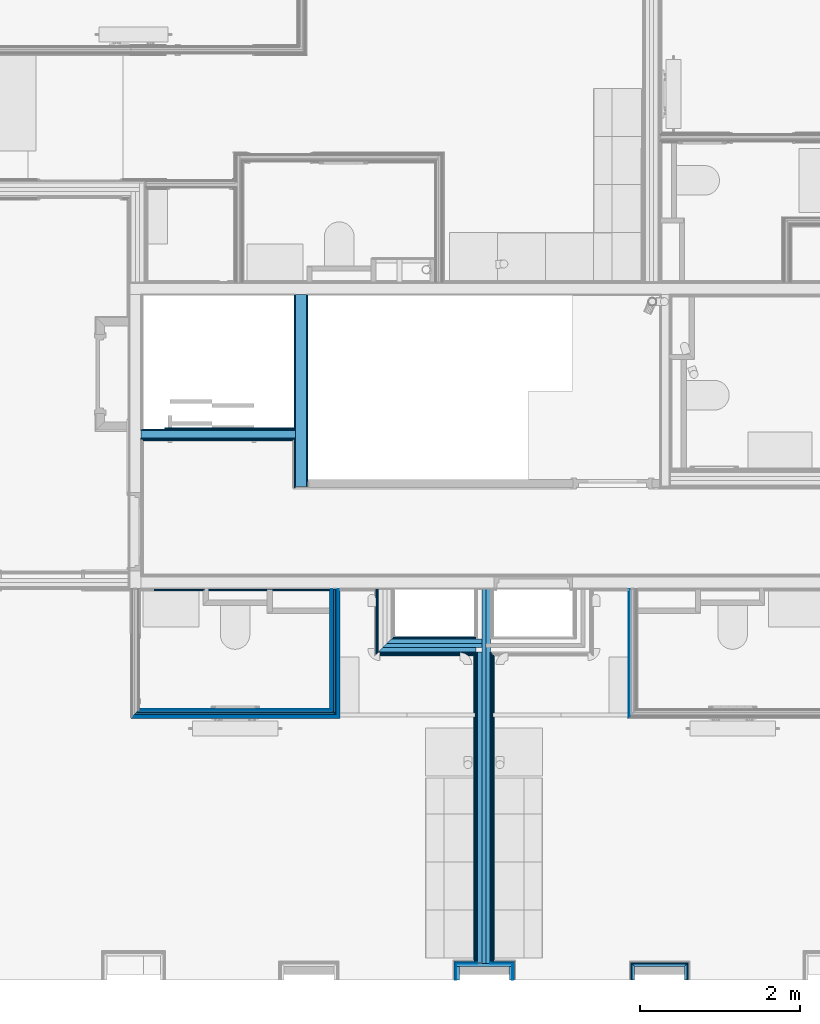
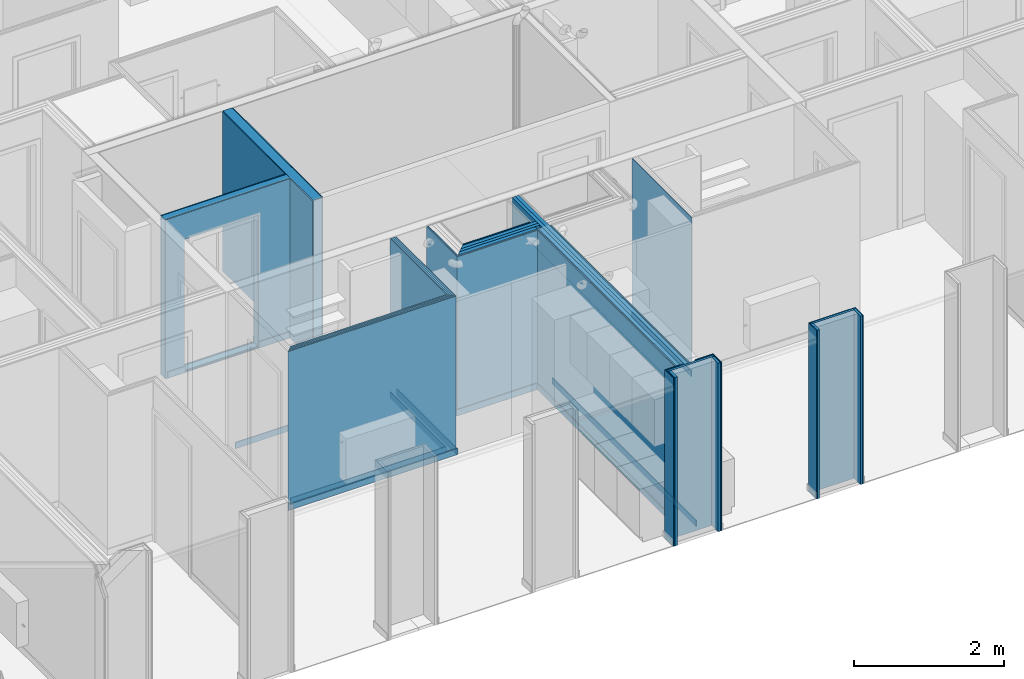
# One storey, part 10 of 85: 62 building element parts, 1 opening, 15 elements without a shape of their own.
"""IFC2X3 building model written with IfcOpenShell, lengths in metres."""

from ifc_helpers import new_model, entity, si_unit, converted_unit, derived_unit, money_unit, direction, frame, frame_2d, origin_with_axes, place, context, subcontext, project, spatial, polyline, rectangle, outline, extrude, material, type_object, element, aggregate, save


model = new_model("IFC2X3")

# Units and contexts
model_context = context("Model", 3, precision=1e-05, world=origin_with_axes(), true_north=direction((0.0, 1.0)))
body_context = subcontext(model_context, "Body", "Model", "MODEL_VIEW", scale=1.0)
ifc_project = project(units=[si_unit("LENGTHUNIT", "METRE"), si_unit("AREAUNIT", "SQUARE_METRE"), si_unit("VOLUMEUNIT", "CUBIC_METRE"), si_unit("ABSORBEDDOSEUNIT", "GRAY"), si_unit("AMOUNTOFSUBSTANCEUNIT", "MOLE"), si_unit("DOSEEQUIVALENTUNIT", "SIEVERT"), si_unit("ELECTRICCAPACITANCEUNIT", "FARAD"), si_unit("ELECTRICCHARGEUNIT", "COULOMB"), si_unit("ELECTRICCONDUCTANCEUNIT", "SIEMENS"), si_unit("ELECTRICCURRENTUNIT", "AMPERE"), si_unit("ELECTRICRESISTANCEUNIT", "OHM"), si_unit("ELECTRICVOLTAGEUNIT", "VOLT"), si_unit("ENERGYUNIT", "JOULE"), si_unit("FORCEUNIT", "NEWTON"), si_unit("FREQUENCYUNIT", "HERTZ"), si_unit("ILLUMINANCEUNIT", "LUX"), si_unit("INDUCTANCEUNIT", "HENRY"), si_unit("LUMINOUSFLUXUNIT", "LUMEN"), si_unit("LUMINOUSINTENSITYUNIT", "CANDELA"), si_unit("MAGNETICFLUXDENSITYUNIT", "TESLA"), si_unit("MAGNETICFLUXUNIT", "WEBER"), si_unit("MASSUNIT", "GRAM"), converted_unit("PLANEANGLEUNIT", "degree", entity("IfcReal", 0.0174532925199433), si_unit("PLANEANGLEUNIT", "RADIAN"), dimensions=[0, 0, 0, 0, 0, 0, 0]), si_unit("POWERUNIT", "WATT"), si_unit("PRESSUREUNIT", "PASCAL"), si_unit("RADIOACTIVITYUNIT", "BECQUEREL"), si_unit("SOLIDANGLEUNIT", "STERADIAN"), si_unit("THERMODYNAMICTEMPERATUREUNIT", "KELVIN"), si_unit("TIMEUNIT", "SECOND"), derived_unit("ACCELERATIONUNIT", [(si_unit("LENGTHUNIT", "METRE"), 1), (si_unit("TIMEUNIT", "SECOND"), -2)]), derived_unit("ANGULARVELOCITYUNIT", [(converted_unit("PLANEANGLEUNIT", "degree", entity("IfcReal", 0.0174532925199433), si_unit("PLANEANGLEUNIT", "RADIAN"), dimensions=[0, 0, 0, 0, 0, 0, 0]), 1), (si_unit("TIMEUNIT", "SECOND"), -1)]), derived_unit("CURVATUREUNIT", [(converted_unit("PLANEANGLEUNIT", "degree", entity("IfcReal", 0.0174532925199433), si_unit("PLANEANGLEUNIT", "RADIAN"), dimensions=[0, 0, 0, 0, 0, 0, 0]), 1), (si_unit("LENGTHUNIT", "METRE"), -1)]), derived_unit("DYNAMICVISCOSITYUNIT", [(si_unit("PRESSUREUNIT", "PASCAL"), 1), (si_unit("TIMEUNIT", "SECOND"), 1)]), derived_unit("HEATFLUXDENSITYUNIT", [(si_unit("POWERUNIT", "WATT"), 1), (si_unit("LENGTHUNIT", "METRE"), -2)]), derived_unit("HEATINGVALUEUNIT", [(si_unit("ENERGYUNIT", "JOULE"), 1), (si_unit("MASSUNIT", "GRAM"), -1)]), derived_unit("INTEGERCOUNTRATEUNIT", [(si_unit("TIMEUNIT", "SECOND"), -1)]), derived_unit("IONCONCENTRATIONUNIT", [(si_unit("MASSUNIT", "GRAM"), 1), (si_unit("VOLUMEUNIT", "CUBIC_METRE"), -1)]), derived_unit("ISOTHERMALMOISTURECAPACITYUNIT", [(si_unit("VOLUMEUNIT", "CUBIC_METRE"), 1), (si_unit("MASSUNIT", "GRAM"), -1)]), derived_unit("KINEMATICVISCOSITYUNIT", [(si_unit("AREAUNIT", "SQUARE_METRE"), 1), (si_unit("TIMEUNIT", "SECOND"), -1)]), derived_unit("LINEARFORCEUNIT", [(si_unit("FORCEUNIT", "NEWTON"), 1), (si_unit("LENGTHUNIT", "METRE"), -1)]), derived_unit("LINEARMOMENTUNIT", [(si_unit("FORCEUNIT", "NEWTON"), 1), (si_unit("LENGTHUNIT", "METRE"), -1)]), derived_unit("LINEARSTIFFNESSUNIT", [(si_unit("FORCEUNIT", "NEWTON"), 1), (si_unit("LENGTHUNIT", "METRE"), -1)]), derived_unit("LINEARVELOCITYUNIT", [(si_unit("LENGTHUNIT", "METRE"), 1), (si_unit("TIMEUNIT", "SECOND"), -1)]), derived_unit("LUMINOUSINTENSITYDISTRIBUTIONUNIT", [(si_unit("LUMINOUSINTENSITYUNIT", "CANDELA"), 1), (si_unit("LUMINOUSFLUXUNIT", "LUMEN"), -1)]), derived_unit("MASSDENSITYUNIT", [(si_unit("MASSUNIT", "GRAM"), 1), (si_unit("VOLUMEUNIT", "CUBIC_METRE"), -1)]), derived_unit("MASSFLOWRATEUNIT", [(si_unit("MASSUNIT", "GRAM"), 1), (si_unit("TIMEUNIT", "SECOND"), -1)]), derived_unit("MASSPERLENGTHUNIT", [(si_unit("MASSUNIT", "GRAM"), 1), (si_unit("LENGTHUNIT", "METRE"), -1)]), derived_unit("MODULUSOFELASTICITYUNIT", [(si_unit("FORCEUNIT", "NEWTON"), 1), (si_unit("AREAUNIT", "SQUARE_METRE"), -1)]), derived_unit("MODULUSOFLINEARSUBGRADEREACTIONUNIT", [(si_unit("FORCEUNIT", "NEWTON"), 1), (si_unit("LENGTHUNIT", "METRE"), -2)]), derived_unit("MODULUSOFROTATIONALSUBGRADEREACTIONUNIT", [(si_unit("FORCEUNIT", "NEWTON"), 1), (si_unit("LENGTHUNIT", "METRE"), 1)]), derived_unit("MODULUSOFSUBGRADEREACTIONUNIT", [(si_unit("FORCEUNIT", "NEWTON"), 1), (si_unit("VOLUMEUNIT", "CUBIC_METRE"), -1)]), derived_unit("MOISTUREDIFFUSIVITYUNIT", [(si_unit("VOLUMEUNIT", "CUBIC_METRE"), 1), (si_unit("TIMEUNIT", "SECOND"), -1)]), derived_unit("MOLECULARWEIGHTUNIT", [(si_unit("MASSUNIT", "GRAM"), 1), (si_unit("AMOUNTOFSUBSTANCEUNIT", "MOLE"), -1)]), derived_unit("PLANARFORCEUNIT", [(si_unit("FORCEUNIT", "NEWTON"), 1), (si_unit("LENGTHUNIT", "METRE"), -2)]), derived_unit("ROTATIONALFREQUENCYUNIT", [(si_unit("TIMEUNIT", "SECOND"), -1)]), derived_unit("ROTATIONALMASSUNIT", [(si_unit("MASSUNIT", "GRAM"), 1), (si_unit("LENGTHUNIT", "METRE"), 2)]), derived_unit("ROTATIONALSTIFFNESSUNIT", [(si_unit("FORCEUNIT", "NEWTON"), 1), (si_unit("LENGTHUNIT", "METRE"), 1), (converted_unit("PLANEANGLEUNIT", "degree", entity("IfcReal", 0.0174532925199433), si_unit("PLANEANGLEUNIT", "RADIAN"), dimensions=[0, 0, 0, 0, 0, 0, 0]), -1)]), derived_unit("SECTIONAREAINTEGRALUNIT", [(si_unit("LENGTHUNIT", "METRE"), 5)]), derived_unit("SECTIONMODULUSUNIT", [(si_unit("LENGTHUNIT", "METRE"), 3)]), derived_unit("SHEARMODULUSUNIT", [(si_unit("FORCEUNIT", "NEWTON"), 1), (si_unit("AREAUNIT", "SQUARE_METRE"), -1)]), derived_unit("SOUNDPOWERUNIT", [(si_unit("ENERGYUNIT", "JOULE"), 1), (si_unit("TIMEUNIT", "SECOND"), -1)]), derived_unit("SPECIFICHEATCAPACITYUNIT", [(si_unit("FORCEUNIT", "NEWTON"), 1), (si_unit("MASSUNIT", "GRAM"), -1), (si_unit("THERMODYNAMICTEMPERATUREUNIT", "KELVIN"), -1)]), derived_unit("TEMPERATUREGRADIENTUNIT", [(si_unit("THERMODYNAMICTEMPERATUREUNIT", "KELVIN"), 1), (si_unit("LENGTHUNIT", "METRE"), -1)]), derived_unit("THERMALADMITTANCEUNIT", [(si_unit("POWERUNIT", "WATT"), 1), (si_unit("AREAUNIT", "SQUARE_METRE"), -1), (si_unit("THERMODYNAMICTEMPERATUREUNIT", "KELVIN"), -1)]), derived_unit("THERMALCONDUCTANCEUNIT", [(si_unit("POWERUNIT", "WATT"), 1), (si_unit("LENGTHUNIT", "METRE"), -1), (si_unit("THERMODYNAMICTEMPERATUREUNIT", "KELVIN"), -1)]), derived_unit("THERMALEXPANSIONCOEFFICIENTUNIT", [(si_unit("THERMODYNAMICTEMPERATUREUNIT", "KELVIN"), -1)]), derived_unit("THERMALRESISTANCEUNIT", [(si_unit("AREAUNIT", "SQUARE_METRE"), 1), (si_unit("POWERUNIT", "WATT"), -1)]), derived_unit("THERMALTRANSMITTANCEUNIT", [(si_unit("POWERUNIT", "WATT"), 1), (si_unit("AREAUNIT", "SQUARE_METRE"), -1), (si_unit("THERMODYNAMICTEMPERATUREUNIT", "KELVIN"), -1)]), derived_unit("TORQUEUNIT", [(si_unit("FORCEUNIT", "NEWTON"), 1), (si_unit("LENGTHUNIT", "METRE"), 1)]), derived_unit("VAPORPERMEABILITYUNIT", [(si_unit("MASSUNIT", "GRAM"), 1), (si_unit("TIMEUNIT", "SECOND"), -1)]), derived_unit("VOLUMETRICFLOWRATEUNIT", [(si_unit("VOLUMEUNIT", "CUBIC_METRE"), 1), (si_unit("TIMEUNIT", "SECOND"), -1)]), derived_unit("WARPINGCONSTANTUNIT", [(si_unit("LENGTHUNIT", "METRE"), 6)]), derived_unit("WARPINGMOMENTUNIT", [(si_unit("FORCEUNIT", "NEWTON"), 1), (si_unit("LENGTHUNIT", "METRE"), 2)]), money_unit("GBP")], contexts=[model_context])

# Site, building, storey
site_placement = place(None, origin_with_axes())
site = spatial("IfcSite", under=ifc_project, at=site_placement, Name="Site", CompositionType="ELEMENT")
building_placement = place(site_placement, origin_with_axes())
building = spatial("IfcBuilding", under=site, at=building_placement, Name="Building01", CompositionType="ELEMENT")
storey_placement = place(building_placement, frame((0.0, 0.0, 12.13), z_axis=(0.0, 0.0, 1.0), x_axis=(1.0, 0.0, 0.0)))
storey = spatial("IfcBuildingStorey", under=building, at=storey_placement, Name="3F", CompositionType="ELEMENT", Elevation=12.13)

# Wall, opening, building element parts
wall_type_1 = type_object("IfcWallType", Name="SHE_A-Walls_Type04a_BlockworkWall_130mm", PredefinedType="NOTDEFINED")
wall_1_placement = place(storey_placement, frame((11.145, 6.965, 0.0), z_axis=(0.0, 0.0, 1.0), x_axis=(-1.0, 0.0, 0.0)))
wall_1 = element("IfcWall", 1, at=wall_1_placement, inside=storey, type_object=wall_type_1, Name="4A", ObjectType="SHE_A-Walls_Type04a_BlockworkWall_130mm")
opening_placement = place(wall_1_placement, frame((0.5, -0.03, 0.03), z_axis=(0.0, 0.0, 1.0), x_axis=(1.0, 0.0, 0.0)))
element("IfcOpeningElement", 2, at=opening_placement, cuts=wall_1, Name="Opening", ObjectType="Opening", context=body_context, shape_type="SweptSolid", body=[
    extrude(rectangle(XDim=1.133302, YDim=2.14, at=frame_2d((-0.566651, 1.07), x_axis=(-1.0, 0.0))), frame((0.0, 0.0, 0.0), z_axis=(0.0, 1.0, 0.0), x_axis=(-1.0, 0.0, 0.0)), (0.0, 0.0, 1.0), 0.16),
])
ifc_material_1 = material(Name="A_BSUK_Walls_Timber")
placement_1 = place(wall_1_placement, origin_with_axes())
building_element_part_1 = element("IfcBuildingElementPart", 3, at=placement_1, material=ifc_material_1, Name="1", context=body_context, shape_type="SweptSolid", body=[
    extrude(outline(polyline([(0.0, -0.015), (0.015, -0.03), (1.633302, -0.03), (1.633302, -0.015), (0.0, -0.015)])), frame((0.0, 0.0, 0.015), z_axis=(0.0, 0.0, 1.0), x_axis=(1.0, 0.0, 0.0)), (0.0, 0.0, 1.0), 0.1),
])
ifc_material_2 = material(Name="A_BSUK_WallInternal_Finishes_Plasterboard")
building_element_part_2 = element("IfcBuildingElementPart", 4, at=placement_1, material=ifc_material_2, Name="2", context=body_context, shape_type="SweptSolid", body=[
    extrude(outline(polyline([(1.93, 0.0), (0.0, 0.0), (0.015, -0.015), (1.93, -0.015), (1.93, 0.0)])), origin_with_axes(), (0.0, 0.0, 1.0), 2.59),
])
ifc_material_3 = material(Name="A_BSUK_WallsInternal_Block")
building_element_part_3 = element("IfcBuildingElementPart", 5, at=placement_1, material=ifc_material_3, Name="3", context=body_context, shape_type="SweptSolid", body=[
    extrude(rectangle(XDim=1.93, YDim=0.1, at=frame_2d((0.965, 0.05), x_axis=(-1.0, 0.0))), origin_with_axes(), (0.0, 0.0, 1.0), 2.59),
])
ifc_material_4 = material(Name="A_BSUK_WallInternal_Finishes_Plaster")
building_element_part_4 = element("IfcBuildingElementPart", 6, at=placement_1, material=ifc_material_4, Name="4", context=body_context, shape_type="SweptSolid", body=[
    extrude(outline(polyline([(1.93, 0.115), (0.015, 0.115), (0.0, 0.1), (1.93, 0.1), (1.93, 0.115)])), origin_with_axes(), (0.0, 0.0, 1.0), 2.59),
])
building_element_part_5 = element("IfcBuildingElementPart", 7, at=placement_1, material=ifc_material_1, Name="5", context=body_context, shape_type="SweptSolid", body=[
    extrude(outline(polyline([(1.9, 0.13), (0.03, 0.13), (0.015, 0.115), (1.9, 0.115), (1.9, 0.13)])), frame((0.0, 0.0, 0.015), z_axis=(0.0, 0.0, 1.0), x_axis=(1.0, 0.0, 0.0)), (0.0, 0.0, 1.0), 0.1),
])
aggregate(wall_1, [building_element_part_1, building_element_part_2, building_element_part_3, building_element_part_4, building_element_part_5])

# Wall, building element parts
wall_type_2 = type_object("IfcWallType", Name="SHE_A-Walls_Type03a_BlockworkWall_170mm", PredefinedType="NOTDEFINED")
wall_2_placement = place(storey_placement, frame((11.145, 6.263, 0.0), z_axis=(0.0, 0.0, 1.0), x_axis=(0.0, 1.0, 0.0)))
wall_2 = element("IfcWall", 8, at=wall_2_placement, inside=storey, type_object=wall_type_2, Name="4B", ObjectType="SHE_A-Walls_Type03a_BlockworkWall_170mm")
placement_2 = place(wall_2_placement, origin_with_axes())
building_element_part_6 = element("IfcBuildingElementPart", 9, at=placement_2, material=ifc_material_2, Name="2", context=body_context, shape_type="SweptSolid", body=[
    extrude(rectangle(XDim=2.387, YDim=0.015, at=frame_2d((1.1935, -0.1475), x_axis=(-1.0, 0.0))), origin_with_axes(), (0.0, 0.0, 1.0), 2.59),
])
building_element_part_7 = element("IfcBuildingElementPart", 10, at=placement_2, material=ifc_material_3, Name="3", context=body_context, shape_type="SweptSolid", body=[
    extrude(rectangle(XDim=2.402, YDim=0.14, at=frame_2d((1.201, -0.07), x_axis=(-1.0, 0.0))), origin_with_axes(), (0.0, 0.0, 1.0), 2.59),
])
building_element_part_8 = element("IfcBuildingElementPart", 11, at=placement_2, material=ifc_material_4, Name="4", context=body_context, shape_type="SweptSolid", body=[
    extrude(outline(polyline([(0.587, 0.015), (-0.013, 0.015), (-0.013, 0.0), (0.602, 0.0), (0.587, 0.015)])), origin_with_axes(), (0.0, 0.0, 1.0), 2.59),
])
building_element_part_9 = element("IfcBuildingElementPart", 12, at=placement_2, material=ifc_material_4, Name="5", context=body_context, shape_type="SweptSolid", body=[
    extrude(outline(polyline([(2.387, 0.015), (0.717, 0.015), (0.702, 0.0), (2.387, 0.0), (2.387, 0.015)])), origin_with_axes(), (0.0, 0.0, 1.0), 2.59),
])
aggregate(wall_2, [building_element_part_6, building_element_part_7, building_element_part_8, building_element_part_9])

wall_type_3 = type_object("IfcWallType", Name="SHE_A-Walls_Type06d_ExternalWallInsulation_48mm", PredefinedType="NOTDEFINED")
wall_3_placement = place(storey_placement, frame((15.383, 0.1, 0.0), z_axis=(0.0, 0.0, 1.0), x_axis=(0.0, 1.0, 0.0)))
wall_3 = element("IfcWall", 13, at=wall_3_placement, inside=storey, type_object=wall_type_3, Name="6D", ObjectType="SHE_A-Walls_Type06d_ExternalWallInsulation_48mm")
ifc_material_5 = material(Name="A_BSUK_Insulation")
placement_3 = place(wall_3_placement, origin_with_axes())
building_element_part_10 = element("IfcBuildingElementPart", 14, at=placement_3, material=ifc_material_5, Name="1", context=body_context, shape_type="SweptSolid", body=[
    extrude(outline(polyline([(0.206, 0.036), (0.0, 0.036), (0.0, 0.0), (0.17, 0.0), (0.206, 0.036)])), origin_with_axes(), (0.0, 0.0, 1.0), 2.74),
])
building_element_part_11 = element("IfcBuildingElementPart", 15, at=placement_3, material=ifc_material_2, Name="2", context=body_context, shape_type="SweptSolid", body=[
    extrude(outline(polyline([(0.218, 0.048), (0.0, 0.048), (0.0, 0.035), (0.205, 0.035), (0.218, 0.048)])), origin_with_axes(), (0.0, 0.0, 1.0), 2.74),
])
aggregate(wall_3, [building_element_part_10, building_element_part_11])

wall_4_placement = place(storey_placement, frame((15.383, 0.27, 0.0), z_axis=(0.0, 0.0, 1.0), x_axis=(1.0, 0.0, 0.0)))
wall_4 = element("IfcWall", 16, at=wall_4_placement, inside=storey, type_object=wall_type_3, Name="6D", ObjectType="SHE_A-Walls_Type06d_ExternalWallInsulation_48mm")
placement_4 = place(wall_4_placement, origin_with_axes())
building_element_part_12 = element("IfcBuildingElementPart", 17, at=placement_4, material=ifc_material_5, Name="1", context=body_context, shape_type="SweptSolid", body=[
    extrude(outline(polyline([(0.66, 0.036), (-0.036, 0.036), (0.0, 0.0), (0.624, 0.0), (0.66, 0.036)])), origin_with_axes(), (0.0, 0.0, 1.0), 2.74),
])
building_element_part_13 = element("IfcBuildingElementPart", 18, at=placement_4, material=ifc_material_2, Name="2", context=body_context, shape_type="SweptSolid", body=[
    extrude(outline(polyline([(0.672, 0.048), (-0.048, 0.048), (-0.035, 0.035), (0.659, 0.035), (0.672, 0.048)])), origin_with_axes(), (0.0, 0.0, 1.0), 2.74),
])
aggregate(wall_4, [building_element_part_12, building_element_part_13])

wall_5_placement = place(storey_placement, frame((16.007, 0.27, 0.0), z_axis=(0.0, 0.0, 1.0), x_axis=(0.0, -1.0, 0.0)))
wall_5 = element("IfcWall", 19, at=wall_5_placement, inside=storey, type_object=wall_type_3, Name="6D", ObjectType="SHE_A-Walls_Type06d_ExternalWallInsulation_48mm")
placement_5 = place(wall_5_placement, origin_with_axes())
building_element_part_14 = element("IfcBuildingElementPart", 20, at=placement_5, material=ifc_material_5, Name="1", context=body_context, shape_type="SweptSolid", body=[
    extrude(outline(polyline([(-0.036, 0.036), (0.0, 0.0), (0.17, 0.0), (0.17, 0.036), (-0.036, 0.036)])), origin_with_axes(), (0.0, 0.0, 1.0), 2.74),
])
building_element_part_15 = element("IfcBuildingElementPart", 21, at=placement_5, material=ifc_material_2, Name="2", context=body_context, shape_type="SweptSolid", body=[
    extrude(outline(polyline([(-0.048, 0.048), (-0.035, 0.035), (0.17, 0.035), (0.17, 0.048), (-0.048, 0.048)])), origin_with_axes(), (0.0, 0.0, 1.0), 2.74),
])
aggregate(wall_5, [building_element_part_14, building_element_part_15])

wall_type_4 = type_object("IfcWallType", Name="SHE_A-Walls_Type01c_Partywall_225mm_twin_tall", PredefinedType="NOTDEFINED")
wall_6_placement = place(storey_placement, frame((12.288, 4.302428, 0.0), z_axis=(0.0, 0.0, 1.0), x_axis=(1.0, 0.0, 0.0)))
wall_6 = element("IfcWall", 22, at=wall_6_placement, inside=storey, type_object=wall_type_4, Name="1C", ObjectType="SHE_A-Walls_Type01c_Partywall_225mm_twin_tall")
placement_6 = place(wall_6_placement, origin_with_axes())
building_element_part_16 = element("IfcBuildingElementPart", 23, at=placement_6, material=ifc_material_1, Name="1", context=body_context, shape_type="SweptSolid", body=[
    extrude(rectangle(XDim=1.2375, YDim=0.015, at=frame_2d((0.46575, -0.1455), x_axis=(-1.0, 0.0))), frame((0.0, 0.0, 0.015), z_axis=(0.0, 0.0, 1.0), x_axis=(1.0, 0.0, 0.0)), (0.0, 0.0, 1.0), 0.1),
])
building_element_part_17 = element("IfcBuildingElementPart", 24, at=placement_6, material=ifc_material_2, Name="2", context=body_context, shape_type="SweptSolid", body=[
    extrude(outline(polyline([(1.0995, -0.123), (-0.123, -0.123), (-0.138, -0.138), (1.0995, -0.138), (1.0995, -0.123)])), origin_with_axes(), (0.0, 0.0, 1.0), 2.59),
])
building_element_part_18 = element("IfcBuildingElementPart", 25, at=placement_6, material=ifc_material_2, Name="3", context=body_context, shape_type="SweptSolid", body=[
    extrude(outline(polyline([(1.1145, -0.108), (-0.108, -0.108), (-0.123, -0.123), (1.1145, -0.123), (1.1145, -0.108)])), origin_with_axes(), (0.0, 0.0, 1.0), 2.59),
])
ifc_material_6 = material(Name="Air Cavity")
building_element_part_19 = element("IfcBuildingElementPart", 26, at=placement_6, material=ifc_material_6, Name="4", context=body_context, shape_type="SweptSolid", body=[
    extrude(outline(polyline([(1.1145, -0.05), (-0.05, -0.05), (-0.108, -0.108), (1.1145, -0.108), (1.1145, -0.05)])), origin_with_axes(), (0.0, 0.0, 1.0), 2.59),
])
building_element_part_20 = element("IfcBuildingElementPart", 27, at=placement_6, material=ifc_material_5, Name="5", context=body_context, shape_type="SweptSolid", body=[
    extrude(outline(polyline([(1.1875, 0.0), (0.0, 0.0), (-0.05, -0.05), (1.1875, -0.05), (1.1875, 0.0)])), origin_with_axes(), (0.0, 0.0, 1.0), 2.59),
])
building_element_part_21 = element("IfcBuildingElementPart", 28, at=placement_6, material=ifc_material_6, Name="6", context=body_context, shape_type="SweptSolid", body=[
    extrude(outline(polyline([(1.1875, 0.057), (0.057, 0.057), (0.0, 0.0), (1.1875, 0.0), (1.1875, 0.057)])), origin_with_axes(), (0.0, 0.0, 1.0), 2.59),
])
building_element_part_22 = element("IfcBuildingElementPart", 29, at=placement_6, material=ifc_material_2, Name="7", context=body_context, shape_type="SweptSolid", body=[
    extrude(outline(polyline([(1.1145, 0.072), (0.072, 0.072), (0.057, 0.057), (1.1145, 0.057), (1.1145, 0.072)])), origin_with_axes(), (0.0, 0.0, 1.0), 2.59),
])
building_element_part_23 = element("IfcBuildingElementPart", 30, at=placement_6, material=ifc_material_2, Name="8", context=body_context, shape_type="SweptSolid", body=[
    extrude(outline(polyline([(1.1145, 0.087), (0.087, 0.087), (0.072, 0.072), (1.1145, 0.072), (1.1145, 0.087)])), origin_with_axes(), (0.0, 0.0, 1.0), 2.59),
])
aggregate(wall_6, [building_element_part_16, building_element_part_17, building_element_part_18, building_element_part_19, building_element_part_20, building_element_part_21, building_element_part_22, building_element_part_23])

wall_7_placement = place(storey_placement, frame((13.5005, 4.995, 0.0), z_axis=(0.0, 0.0, 1.0), x_axis=(0.0, -1.0, 0.0)))
wall_7 = element("IfcWall", 31, at=wall_7_placement, inside=storey, type_object=wall_type_4, Name="1C", ObjectType="SHE_A-Walls_Type01c_Partywall_225mm_twin_tall")
placement_7 = place(wall_7_placement, origin_with_axes())
building_element_part_24 = element("IfcBuildingElementPart", 32, at=placement_7, material=ifc_material_1, Name="1", context=body_context, shape_type="SweptSolid", body=[
    extrude(rectangle(XDim=3.831428, YDim=0.015, at=frame_2d((2.746286, -0.1205), x_axis=(-1.0, 0.0))), frame((0.0, 0.0, 0.015), z_axis=(0.0, 0.0, 1.0), x_axis=(1.0, 0.0, 0.0)), (0.0, 0.0, 1.0), 0.1),
])
building_element_part_25 = element("IfcBuildingElementPart", 33, at=placement_7, material=ifc_material_2, Name="3", context=body_context, shape_type="SweptSolid", body=[
    extrude(rectangle(XDim=3.846428, YDim=0.015, at=frame_2d((2.738786, -0.1055), x_axis=(-1.0, 0.0))), origin_with_axes(), (0.0, 0.0, 1.0), 2.59),
])
building_element_part_26 = element("IfcBuildingElementPart", 34, at=placement_7, material=ifc_material_2, Name="5", context=body_context, shape_type="SweptSolid", body=[
    extrude(rectangle(XDim=3.876428, YDim=0.015, at=frame_2d((2.738786, -0.0905), x_axis=(-1.0, 0.0))), origin_with_axes(), (0.0, 0.0, 1.0), 2.59),
])
building_element_part_27 = element("IfcBuildingElementPart", 35, at=placement_7, material=ifc_material_6, Name="6", context=body_context, shape_type="SweptSolid", body=[
    extrude(rectangle(XDim=3.876428, YDim=0.058, at=frame_2d((2.738786, -0.054), x_axis=(-1.0, 0.0))), origin_with_axes(), (0.0, 0.0, 1.0), 2.59),
])
building_element_part_28 = element("IfcBuildingElementPart", 36, at=placement_7, material=ifc_material_5, Name="7", context=body_context, shape_type="SweptSolid", body=[
    extrude(rectangle(XDim=4.689, YDim=0.05, at=frame_2d((2.3445, 0.0), x_axis=(-1.0, 0.0))), origin_with_axes(), (0.0, 0.0, 1.0), 2.59),
])
building_element_part_29 = element("IfcBuildingElementPart", 37, at=placement_7, material=ifc_material_6, Name="8", context=body_context, shape_type="SweptSolid", body=[
    extrude(rectangle(XDim=4.689, YDim=0.057, at=frame_2d((2.3445, 0.0535), x_axis=(-1.0, 0.0))), origin_with_axes(), (0.0, 0.0, 1.0), 2.59),
])
building_element_part_30 = element("IfcBuildingElementPart", 38, at=placement_7, material=ifc_material_2, Name="10", context=body_context, shape_type="SweptSolid", body=[
    extrude(rectangle(XDim=3.876428, YDim=0.015, at=frame_2d((2.738786, 0.0895), x_axis=(-1.0, 0.0))), origin_with_axes(), (0.0, 0.0, 1.0), 2.59),
])
building_element_part_31 = element("IfcBuildingElementPart", 39, at=placement_7, material=ifc_material_2, Name="12", context=body_context, shape_type="SweptSolid", body=[
    extrude(rectangle(XDim=0.015, YDim=3.846428, at=frame_2d((2.738786, 0.1045), x_axis=(0.0, -1.0))), origin_with_axes(), (0.0, 0.0, 1.0), 2.59),
])
building_element_part_32 = element("IfcBuildingElementPart", 40, at=placement_7, material=ifc_material_1, Name="13", context=body_context, shape_type="SweptSolid", body=[
    extrude(rectangle(XDim=0.015, YDim=3.831428, at=frame_2d((2.746286, 0.1195), x_axis=(0.0, -1.0))), frame((0.0, 0.0, 0.015), z_axis=(0.0, 0.0, 1.0), x_axis=(1.0, 0.0, 0.0)), (0.0, 0.0, 1.0), 0.1),
])
aggregate(wall_7, [building_element_part_24, building_element_part_25, building_element_part_26, building_element_part_27, building_element_part_28, building_element_part_29, building_element_part_30, building_element_part_31, building_element_part_32])

wall_8_placement = place(storey_placement, frame((12.288, 4.98, 0.0), z_axis=(0.0, 0.0, 1.0), x_axis=(0.0, -1.0, 0.0)))
wall_8 = element("IfcWall", 41, at=wall_8_placement, inside=storey, type_object=wall_type_4, Name="1C", ObjectType="SHE_A-Walls_Type01c_Partywall_225mm_twin_tall")
placement_8 = place(wall_8_placement, origin_with_axes())
building_element_part_33 = element("IfcBuildingElementPart", 42, at=placement_8, material=ifc_material_2, Name="3", context=body_context, shape_type="SweptSolid", body=[
    extrude(outline(polyline([(0.800572, -0.123), (0.0, -0.123), (0.0, -0.138), (0.815572, -0.138), (0.800572, -0.123)])), origin_with_axes(), (0.0, 0.0, 1.0), 2.59),
])
building_element_part_34 = element("IfcBuildingElementPart", 43, at=placement_8, material=ifc_material_2, Name="4", context=body_context, shape_type="SweptSolid", body=[
    extrude(outline(polyline([(0.785572, -0.108), (0.0, -0.108), (0.0, -0.123), (0.800572, -0.123), (0.785572, -0.108)])), origin_with_axes(), (0.0, 0.0, 1.0), 2.59),
])
aggregate(wall_8, [building_element_part_33, building_element_part_34])

wall_type_5 = type_object("IfcWallType", Name="SHE_A-Walls_Type05a_Partition_95mm_tall", PredefinedType="NOTDEFINED")
wall_9_placement = place(storey_placement, frame((15.3475, 3.42, 0.0), z_axis=(0.0, 0.0, 1.0), x_axis=(0.0, 1.0, 0.0)))
wall_9 = element("IfcWall", 44, at=wall_9_placement, inside=storey, type_object=wall_type_5, Name="5A", ObjectType="SHE_A-Walls_Type05a_Partition_95mm_tall")
placement_9 = place(wall_9_placement, origin_with_axes())
building_element_part_35 = element("IfcBuildingElementPart", 45, at=placement_9, material=ifc_material_2, Name="6", context=body_context, shape_type="SweptSolid", body=[
    extrude(outline(polyline([(1.56, 0.035), (-0.035, 0.035), (-0.023, 0.023), (1.56, 0.023), (1.56, 0.035)])), origin_with_axes(), (0.0, 0.0, 1.0), 2.59),
])
building_element_part_36 = element("IfcBuildingElementPart", 46, at=placement_9, material=ifc_material_1, Name="7", context=body_context, shape_type="SweptSolid", body=[
    extrude(outline(polyline([(1.545, 0.05), (-0.05, 0.05), (-0.035, 0.035), (1.545, 0.035), (1.545, 0.05)])), frame((0.0, 0.0, 0.015), z_axis=(0.0, 0.0, 1.0), x_axis=(1.0, 0.0, 0.0)), (0.0, 0.0, 1.0), 0.1),
])
aggregate(wall_9, [building_element_part_35, building_element_part_36])

wall_10_placement = place(storey_placement, frame((9.132536, 3.42, 0.0), z_axis=(0.0, 0.0, 1.0), x_axis=(1.0, 0.0, 0.0)))
wall_10 = element("IfcWall", 47, at=wall_10_placement, inside=storey, type_object=wall_type_5, Name="5A", ObjectType="SHE_A-Walls_Type05a_Partition_95mm_tall")
placement_10 = place(wall_10_placement, origin_with_axes())
building_element_part_37 = element("IfcBuildingElementPart", 48, at=placement_10, material=ifc_material_1, Name="1", context=body_context, shape_type="SweptSolid", body=[
    extrude(outline(polyline([(2.555, -0.035), (-0.035, -0.035), (-0.035, -0.05), (2.57, -0.05), (2.555, -0.035)])), frame((0.0, 0.0, 0.015), z_axis=(0.0, 0.0, 1.0), x_axis=(1.0, 0.0, 0.0)), (0.0, 0.0, 1.0), 0.1),
])
building_element_part_38 = element("IfcBuildingElementPart", 49, at=placement_10, material=ifc_material_2, Name="2", context=body_context, shape_type="SweptSolid", body=[
    extrude(outline(polyline([(2.543, -0.023), (-0.023, -0.023), (-0.035, -0.035), (2.555, -0.035), (2.543, -0.023)])), origin_with_axes(), (0.0, 0.0, 1.0), 2.59),
])
building_element_part_39 = element("IfcBuildingElementPart", 50, at=placement_10, material=ifc_material_6, Name="3", context=body_context, shape_type="SweptSolid", body=[
    extrude(outline(polyline([(2.52, 0.0), (0.0, 0.0), (-0.023, -0.023), (2.543, -0.023), (2.52, 0.0)])), origin_with_axes(), (0.0, 0.0, 1.0), 2.59),
])
building_element_part_40 = element("IfcBuildingElementPart", 51, at=placement_10, material=ifc_material_5, Name="4", context=body_context, shape_type="SweptSolid", body=[
    extrude(outline(polyline([(2.495, 0.025), (0.025, 0.025), (0.0, 0.0), (2.52, 0.0), (2.495, 0.025)])), origin_with_axes(), (0.0, 0.0, 1.0), 2.59),
])
building_element_part_41 = element("IfcBuildingElementPart", 52, at=placement_10, material=ifc_material_6, Name="5", context=body_context, shape_type="SweptSolid", body=[
    extrude(outline(polyline([(2.472, 0.048), (0.048, 0.048), (0.025, 0.025), (2.495, 0.025), (2.472, 0.048)])), origin_with_axes(), (0.0, 0.0, 1.0), 2.59),
])
building_element_part_42 = element("IfcBuildingElementPart", 53, at=placement_10, material=ifc_material_2, Name="6", context=body_context, shape_type="SweptSolid", body=[
    extrude(outline(polyline([(2.46, 0.06), (0.06, 0.06), (0.048, 0.048), (2.472, 0.048), (2.46, 0.06)])), origin_with_axes(), (0.0, 0.0, 1.0), 2.59),
])
building_element_part_43 = element("IfcBuildingElementPart", 54, at=placement_10, material=ifc_material_1, Name="7", context=body_context, shape_type="SweptSolid", body=[
    extrude(outline(polyline([(2.445, 0.075), (0.06, 0.075), (0.06, 0.06), (2.46, 0.06), (2.445, 0.075)])), frame((0.0, 0.0, 0.015), z_axis=(0.0, 0.0, 1.0), x_axis=(1.0, 0.0, 0.0)), (0.0, 0.0, 1.0), 0.1),
])
aggregate(wall_10, [building_element_part_37, building_element_part_38, building_element_part_39, building_element_part_40, building_element_part_41, building_element_part_42, building_element_part_43])

wall_11_placement = place(storey_placement, frame((11.652536, 3.42, 0.0), z_axis=(0.0, 0.0, 1.0), x_axis=(0.0, 1.0, 0.0)))
wall_11 = element("IfcWall", 55, at=wall_11_placement, inside=storey, type_object=wall_type_5, Name="5A", ObjectType="SHE_A-Walls_Type05a_Partition_95mm_tall")
placement_11 = place(wall_11_placement, origin_with_axes())
building_element_part_44 = element("IfcBuildingElementPart", 56, at=placement_11, material=ifc_material_1, Name="1", context=body_context, shape_type="SweptSolid", body=[
    extrude(outline(polyline([(1.56, -0.035), (-0.035, -0.035), (-0.05, -0.05), (1.56, -0.05), (1.56, -0.035)])), frame((0.0, 0.0, 0.015), z_axis=(0.0, 0.0, 1.0), x_axis=(1.0, 0.0, 0.0)), (0.0, 0.0, 1.0), 0.1),
])
building_element_part_45 = element("IfcBuildingElementPart", 57, at=placement_11, material=ifc_material_2, Name="2", context=body_context, shape_type="SweptSolid", body=[
    extrude(outline(polyline([(1.56, -0.023), (-0.023, -0.023), (-0.035, -0.035), (1.56, -0.035), (1.56, -0.023)])), origin_with_axes(), (0.0, 0.0, 1.0), 2.59),
])
building_element_part_46 = element("IfcBuildingElementPart", 58, at=placement_11, material=ifc_material_6, Name="3", context=body_context, shape_type="SweptSolid", body=[
    extrude(outline(polyline([(1.56, 0.0), (0.0, 0.0), (-0.023, -0.023), (1.56, -0.023), (1.56, 0.0)])), origin_with_axes(), (0.0, 0.0, 1.0), 2.59),
])
building_element_part_47 = element("IfcBuildingElementPart", 59, at=placement_11, material=ifc_material_5, Name="4", context=body_context, shape_type="SweptSolid", body=[
    extrude(outline(polyline([(1.56, 0.025), (0.025, 0.025), (0.0, 0.0), (1.56, 0.0), (1.56, 0.025)])), origin_with_axes(), (0.0, 0.0, 1.0), 2.59),
])
building_element_part_48 = element("IfcBuildingElementPart", 60, at=placement_11, material=ifc_material_6, Name="5", context=body_context, shape_type="SweptSolid", body=[
    extrude(outline(polyline([(1.56, 0.048), (0.048, 0.048), (0.025, 0.025), (1.56, 0.025), (1.56, 0.048)])), origin_with_axes(), (0.0, 0.0, 1.0), 2.59),
])
building_element_part_49 = element("IfcBuildingElementPart", 61, at=placement_11, material=ifc_material_2, Name="6", context=body_context, shape_type="SweptSolid", body=[
    extrude(outline(polyline([(1.56, 0.06), (0.06, 0.06), (0.048, 0.048), (1.56, 0.048), (1.56, 0.06)])), origin_with_axes(), (0.0, 0.0, 1.0), 2.59),
])
building_element_part_50 = element("IfcBuildingElementPart", 62, at=placement_11, material=ifc_material_1, Name="7", context=body_context, shape_type="SweptSolid", body=[
    extrude(outline(polyline([(1.545, 0.075), (0.075, 0.075), (0.06, 0.06), (1.545, 0.06), (1.545, 0.075)])), frame((0.0, 0.0, 0.015), z_axis=(0.0, 0.0, 1.0), x_axis=(1.0, 0.0, 0.0)), (0.0, 0.0, 1.0), 0.1),
])
aggregate(wall_11, [building_element_part_44, building_element_part_45, building_element_part_46, building_element_part_47, building_element_part_48, building_element_part_49, building_element_part_50])

# Wall, building element part
wall_12_placement = place(storey_placement, frame((9.215, 4.995, 0.0), z_axis=(0.0, 0.0, 1.0), x_axis=(1.0, 0.0, 0.0)))
wall_12 = element("IfcWall", 63, at=wall_12_placement, inside=storey, type_object=wall_type_2, Name="4B", ObjectType="SHE_A-Walls_Type03a_BlockworkWall_170mm")
building_element_part_51_placement = place(wall_12_placement, origin_with_axes())
building_element_part_51 = element("IfcBuildingElementPart", 64, at=building_element_part_51_placement, material=ifc_material_1, Name="4", context=body_context, shape_type="SweptSolid", body=[
    extrude(rectangle(XDim=2.385, YDim=0.015, at=frame_2d((1.185036, -0.0225), x_axis=(-1.0, 0.0))), frame((0.0, 0.0, 0.015), z_axis=(0.0, 0.0, 1.0), x_axis=(1.0, 0.0, 0.0)), (0.0, 0.0, 1.0), 0.1),
])
aggregate(wall_12, [building_element_part_51])

# Wall, building element parts
wall_type_6 = type_object("IfcWallType", Name="SHE_A-Walls_Type06f_ExternalWallInsulation_48+15mm", PredefinedType="NOTDEFINED")
wall_13_placement = place(storey_placement, frame((13.193, 0.1, 0.0), z_axis=(0.0, 0.0, 1.0), x_axis=(0.0, -1.0, 0.0)))
wall_13 = element("IfcWall", 65, at=wall_13_placement, inside=storey, type_object=wall_type_6, Name="6F", ObjectType="SHE_A-Walls_Type06f_ExternalWallInsulation_48+15mm")
placement_12 = place(wall_13_placement, origin_with_axes())
building_element_part_52 = element("IfcBuildingElementPart", 66, at=placement_12, material=ifc_material_2, Name="2", context=body_context, shape_type="SweptSolid", body=[
    extrude(outline(polyline([(-0.233, -0.063), (0.0, -0.063), (0.0, -0.048), (-0.218, -0.048), (-0.233, -0.063)])), origin_with_axes(), (0.0, 0.0, 1.0), 2.74),
])
building_element_part_53 = element("IfcBuildingElementPart", 67, at=placement_12, material=ifc_material_2, Name="3", context=body_context, shape_type="SweptSolid", body=[
    extrude(rectangle(XDim=0.206, YDim=0.012, at=frame_2d((-0.103, -0.042), x_axis=(1.0, 0.0))), origin_with_axes(), (0.0, 0.0, 1.0), 2.74),
])
building_element_part_54 = element("IfcBuildingElementPart", 68, at=placement_12, material=ifc_material_5, Name="4", context=body_context, shape_type="SweptSolid", body=[
    extrude(rectangle(XDim=0.17, YDim=0.036, at=frame_2d((-0.085, -0.018), x_axis=(1.0, 0.0))), origin_with_axes(), (0.0, 0.0, 1.0), 2.74),
])
aggregate(wall_13, [building_element_part_52, building_element_part_53, building_element_part_54])

wall_14_placement = place(storey_placement, frame((13.817124, 0.1, 0.0), z_axis=(0.0, 0.0, 1.0), x_axis=(0.0, -1.0, 0.0)))
wall_14 = element("IfcWall", 69, at=wall_14_placement, inside=storey, type_object=wall_type_6, Name="6F", ObjectType="SHE_A-Walls_Type06f_ExternalWallInsulation_48+15mm")
placement_13 = place(wall_14_placement, origin_with_axes())
building_element_part_55 = element("IfcBuildingElementPart", 70, at=placement_13, material=ifc_material_5, Name="1", context=body_context, shape_type="SweptSolid", body=[
    extrude(rectangle(XDim=0.17, YDim=0.036, at=frame_2d((-0.085, 0.018), x_axis=(1.0, 0.0))), origin_with_axes(), (0.0, 0.0, 1.0), 2.74),
])
building_element_part_56 = element("IfcBuildingElementPart", 71, at=placement_13, material=ifc_material_2, Name="2", context=body_context, shape_type="SweptSolid", body=[
    extrude(rectangle(XDim=0.206, YDim=0.012, at=frame_2d((-0.103, 0.042), x_axis=(1.0, 0.0))), origin_with_axes(), (0.0, 0.0, 1.0), 2.74),
])
building_element_part_57 = element("IfcBuildingElementPart", 72, at=placement_13, material=ifc_material_2, Name="3", context=body_context, shape_type="SweptSolid", body=[
    extrude(outline(polyline([(-0.218, 0.048), (0.0, 0.048), (0.0, 0.063), (-0.233, 0.063), (-0.218, 0.048)])), origin_with_axes(), (0.0, 0.0, 1.0), 2.74),
])
aggregate(wall_14, [building_element_part_55, building_element_part_56, building_element_part_57])

wall_15_placement = place(storey_placement, frame((13.853124, 0.27, 0.0), z_axis=(0.0, 0.0, 1.0), x_axis=(-1.0, 0.0, 0.0)))
wall_15 = element("IfcWall", 73, at=wall_15_placement, inside=storey, type_object=wall_type_6, Name="6F", ObjectType="SHE_A-Walls_Type06f_ExternalWallInsulation_48+15mm")
placement_14 = place(wall_15_placement, origin_with_axes())
building_element_part_58 = element("IfcBuildingElementPart", 74, at=placement_14, material=ifc_material_2, Name="3", context=body_context, shape_type="SweptSolid", body=[
    extrude(outline(polyline([(-0.012, -0.048), (-0.027, -0.063), (0.255624, -0.063), (0.255624, -0.048), (-0.012, -0.048)])), origin_with_axes(), (0.0, 0.0, 1.0), 2.74),
])
building_element_part_59 = element("IfcBuildingElementPart", 75, at=placement_14, material=ifc_material_2, Name="4", context=body_context, shape_type="SweptSolid", body=[
    extrude(outline(polyline([(0.708124, -0.048), (0.450624, -0.048), (0.450624, -0.063), (0.723124, -0.063), (0.708124, -0.048)])), origin_with_axes(), (0.0, 0.0, 1.0), 2.74),
])
building_element_part_60 = element("IfcBuildingElementPart", 76, at=placement_14, material=ifc_material_2, Name="5", context=body_context, shape_type="SweptSolid", body=[
    extrude(rectangle(XDim=0.012, YDim=0.282624, at=frame_2d((0.129312, -0.042), x_axis=(0.0, -1.0))), origin_with_axes(), (0.0, 0.0, 1.0), 2.74),
])
building_element_part_61 = element("IfcBuildingElementPart", 77, at=placement_14, material=ifc_material_2, Name="6", context=body_context, shape_type="SweptSolid", body=[
    extrude(rectangle(XDim=0.2725, YDim=0.012, at=frame_2d((0.571874, -0.042), x_axis=(-1.0, 0.0))), origin_with_axes(), (0.0, 0.0, 1.0), 2.74),
])
building_element_part_62 = element("IfcBuildingElementPart", 78, at=placement_14, material=ifc_material_5, Name="7", context=body_context, shape_type="SweptSolid", body=[
    extrude(rectangle(XDim=0.696124, YDim=0.036, at=frame_2d((0.348062, -0.018), x_axis=(-1.0, 0.0))), origin_with_axes(), (0.0, 0.0, 1.0), 2.74),
])
aggregate(wall_15, [building_element_part_58, building_element_part_59, building_element_part_60, building_element_part_61, building_element_part_62])

save(model, "model.ifc")
